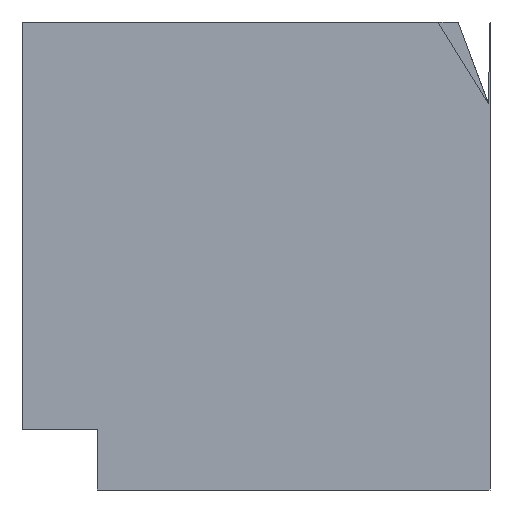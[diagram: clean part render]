
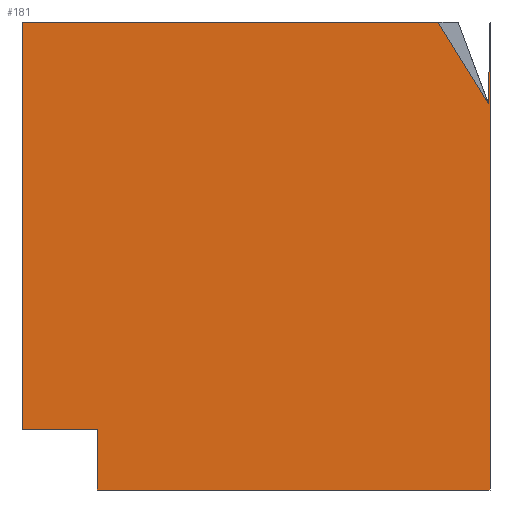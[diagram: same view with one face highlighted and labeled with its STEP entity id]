
A CAD part, left-side view. The second image highlights one B-rep face of the part: STEP entity #181.
In plain terms, the highlighted planar face has unit normal (-1, 0, 0).
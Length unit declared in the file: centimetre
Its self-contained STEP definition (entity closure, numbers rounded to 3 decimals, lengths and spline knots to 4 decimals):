
#14 = LINE ( 'NONE', #818, #921 ) ;
#29 = DIRECTION ( 'NONE',  ( 0., -0.02, 1. ) ) ;
#31 = LINE ( 'NONE', #594, #903 ) ;
#62 = VERTEX_POINT ( 'NONE', #233 ) ;
#108 = VERTEX_POINT ( 'NONE', #781 ) ;
#114 = ORIENTED_EDGE ( 'NONE', *, *, #688, .F. ) ;
#135 = CARTESIAN_POINT ( 'NONE',  ( 0., 0., 0. ) ) ;
#163 = LINE ( 'NONE', #444, #1024 ) ;
#181 = ADVANCED_FACE ( 'NONE', ( #820 ), #267, .F. ) ;
#192 = ORIENTED_EDGE ( 'NONE', *, *, #318, .F. ) ;
#217 = CARTESIAN_POINT ( 'NONE',  ( 0., 0., 1000. ) ) ;
#230 = CARTESIAN_POINT ( 'NONE',  ( 0., 839.2169, 0. ) ) ;
#233 = CARTESIAN_POINT ( 'NONE',  ( 0., 1000., 1000. ) ) ;
#239 = DIRECTION ( 'NONE',  ( 0., 0., -1. ) ) ;
#253 = CARTESIAN_POINT ( 'NONE',  ( 0., 839.2169, 130.312 ) ) ;
#263 = DIRECTION ( 'NONE',  ( 0., 0., -1. ) ) ;
#267 = PLANE ( 'NONE',  #824 ) ;
#294 = ORIENTED_EDGE ( 'NONE', *, *, #925, .F. ) ;
#299 = CARTESIAN_POINT ( 'NONE',  ( 0., 839.2169, 130.312 ) ) ;
#318 = EDGE_CURVE ( 'NONE', #501, #108, #625, .T. ) ;
#370 = LINE ( 'NONE', #729, #396 ) ;
#377 = VERTEX_POINT ( 'NONE', #135 ) ;
#393 = VERTEX_POINT ( 'NONE', #230 ) ;
#396 = VECTOR ( 'NONE', #1098, 100. ) ;
#444 = CARTESIAN_POINT ( 'NONE',  ( 0., 0., 1000. ) ) ;
#473 = EDGE_CURVE ( 'NONE', #393, #377, #14, .T. ) ;
#501 = VERTEX_POINT ( 'NONE', #655 ) ;
#521 = DIRECTION ( 'NONE',  ( 0., 1., 0. ) ) ;
#529 = CARTESIAN_POINT ( 'NONE',  ( 0., 839.2169, 0. ) ) ;
#530 = ORIENTED_EDGE ( 'NONE', *, *, #1151, .F. ) ;
#546 = DIRECTION ( 'NONE',  ( 1., 0., 0. ) ) ;
#558 = EDGE_CURVE ( 'NONE', #62, #501, #370, .T. ) ;
#564 = VECTOR ( 'NONE', #521, 100. ) ;
#570 = EDGE_CURVE ( 'NONE', #770, #377, #163, .T. ) ;
#576 = ORIENTED_EDGE ( 'NONE', *, *, #1060, .T. ) ;
#580 = VERTEX_POINT ( 'NONE', #299 ) ;
#594 = CARTESIAN_POINT ( 'NONE',  ( 0., 3.5189, 826.6407 ) ) ;
#599 = DIRECTION ( 'NONE',  ( 0., -0.528, -0.849 ) ) ;
#612 = ORIENTED_EDGE ( 'NONE', *, *, #558, .F. ) ;
#621 = VECTOR ( 'NONE', #797, 100. ) ;
#625 = LINE ( 'NONE', #1155, #973 ) ;
#655 = CARTESIAN_POINT ( 'NONE',  ( 0., 111.2528, 1000. ) ) ;
#688 = EDGE_CURVE ( 'NONE', #108, #770, #31, .T. ) ;
#700 = LINE ( 'NONE', #1072, #978 ) ;
#729 = CARTESIAN_POINT ( 'NONE',  ( 0., 1000., 1000. ) ) ;
#760 = ORIENTED_EDGE ( 'NONE', *, *, #473, .T. ) ;
#770 = VERTEX_POINT ( 'NONE', #217 ) ;
#781 = CARTESIAN_POINT ( 'NONE',  ( 0., 3.5189, 826.6407 ) ) ;
#783 = CARTESIAN_POINT ( 'NONE',  ( 0., 1000., 130.312 ) ) ;
#797 = DIRECTION ( 'NONE',  ( 0., 0., 1. ) ) ;
#818 = CARTESIAN_POINT ( 'NONE',  ( 0., 1000., 0. ) ) ;
#820 = FACE_OUTER_BOUND ( 'NONE', #1126, .T. ) ;
#824 = AXIS2_PLACEMENT_3D ( 'NONE', #904, #546, #1195 ) ;
#903 = VECTOR ( 'NONE', #29, 100. ) ;
#904 = CARTESIAN_POINT ( 'NONE',  ( 0., 1000., 1000. ) ) ;
#921 = VECTOR ( 'NONE', #1193, 100. ) ;
#925 = EDGE_CURVE ( 'NONE', #580, #1026, #1086, .T. ) ;
#973 = VECTOR ( 'NONE', #599, 100. ) ;
#978 = VECTOR ( 'NONE', #239, 100. ) ;
#1024 = VECTOR ( 'NONE', #263, 100. ) ;
#1026 = VERTEX_POINT ( 'NONE', #783 ) ;
#1060 = EDGE_CURVE ( 'NONE', #62, #1026, #700, .T. ) ;
#1062 = ORIENTED_EDGE ( 'NONE', *, *, #570, .F. ) ;
#1072 = CARTESIAN_POINT ( 'NONE',  ( 0., 1000., 1000. ) ) ;
#1086 = LINE ( 'NONE', #253, #564 ) ;
#1098 = DIRECTION ( 'NONE',  ( 0., -1., 0. ) ) ;
#1126 = EDGE_LOOP ( 'NONE', ( #1062, #114, #192, #612, #576, #294, #530, #760 ) ) ;
#1149 = LINE ( 'NONE', #529, #621 ) ;
#1151 = EDGE_CURVE ( 'NONE', #393, #580, #1149, .T. ) ;
#1155 = CARTESIAN_POINT ( 'NONE',  ( 0., 111.2528, 1000. ) ) ;
#1193 = DIRECTION ( 'NONE',  ( 0., -1., 0. ) ) ;
#1195 = DIRECTION ( 'NONE',  ( 0., 0., -1. ) ) ;
